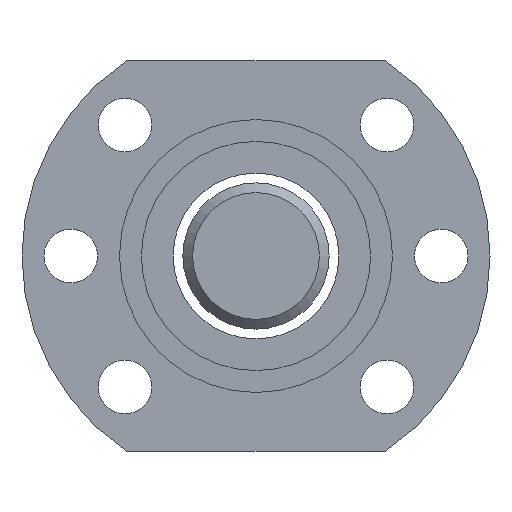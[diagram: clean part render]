
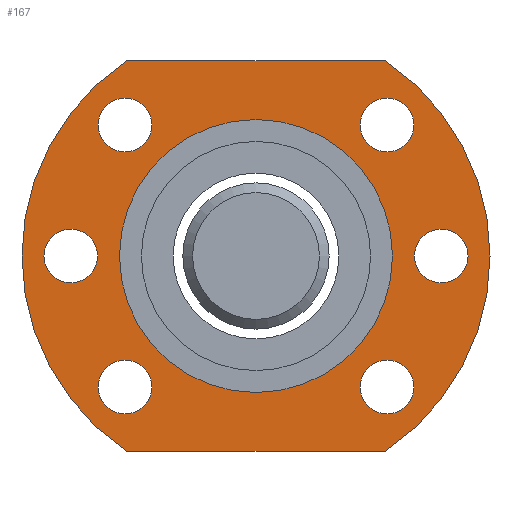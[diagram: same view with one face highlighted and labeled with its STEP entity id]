
A CAD part, left-side view. The second image highlights one B-rep face of the part: STEP entity #167.
In plain terms, the highlighted planar face has unit normal (-1, 0, 0).
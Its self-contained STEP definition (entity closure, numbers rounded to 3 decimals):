
#113=LINE('',#1132,#121);
#114=LINE('',#1136,#122);
#121=VECTOR('',#930,1.);
#122=VECTOR('',#933,1.);
#136=PLANE('',#782);
#167=ADVANCED_FACE('',(#267,#268,#269,#270,#271,#272,#273,#274),#136,.T.);
#267=FACE_BOUND('',#367,.T.);
#268=FACE_BOUND('',#368,.T.);
#269=FACE_BOUND('',#369,.T.);
#270=FACE_BOUND('',#370,.T.);
#271=FACE_BOUND('',#371,.T.);
#272=FACE_BOUND('',#372,.T.);
#273=FACE_BOUND('',#373,.T.);
#274=FACE_BOUND('',#374,.T.);
#367=EDGE_LOOP('',(#476));
#368=EDGE_LOOP('',(#477));
#369=EDGE_LOOP('',(#478,#479,#480,#481));
#370=EDGE_LOOP('',(#482));
#371=EDGE_LOOP('',(#483));
#372=EDGE_LOOP('',(#484));
#373=EDGE_LOOP('',(#485));
#374=EDGE_LOOP('',(#486));
#476=ORIENTED_EDGE('',*,*,#641,.T.);
#477=ORIENTED_EDGE('',*,*,#630,.F.);
#478=ORIENTED_EDGE('',*,*,#642,.T.);
#479=ORIENTED_EDGE('',*,*,#643,.T.);
#480=ORIENTED_EDGE('',*,*,#644,.T.);
#481=ORIENTED_EDGE('',*,*,#645,.T.);
#482=ORIENTED_EDGE('',*,*,#646,.F.);
#483=ORIENTED_EDGE('',*,*,#647,.F.);
#484=ORIENTED_EDGE('',*,*,#648,.F.);
#485=ORIENTED_EDGE('',*,*,#649,.T.);
#486=ORIENTED_EDGE('',*,*,#650,.T.);
#572=VERTEX_POINT('',#1104);
#583=VERTEX_POINT('',#1128);
#584=VERTEX_POINT('',#1130);
#585=VERTEX_POINT('',#1131);
#586=VERTEX_POINT('',#1133);
#587=VERTEX_POINT('',#1135);
#588=VERTEX_POINT('',#1138);
#589=VERTEX_POINT('',#1140);
#590=VERTEX_POINT('',#1142);
#591=VERTEX_POINT('',#1144);
#592=VERTEX_POINT('',#1146);
#630=EDGE_CURVE('',#572,#572,#692,.T.);
#641=EDGE_CURVE('',#583,#583,#701,.T.);
#642=EDGE_CURVE('',#584,#585,#702,.T.);
#643=EDGE_CURVE('',#585,#586,#113,.T.);
#644=EDGE_CURVE('',#586,#587,#703,.T.);
#645=EDGE_CURVE('',#587,#584,#114,.T.);
#646=EDGE_CURVE('',#588,#588,#704,.T.);
#647=EDGE_CURVE('',#589,#589,#705,.T.);
#648=EDGE_CURVE('',#590,#590,#706,.T.);
#649=EDGE_CURVE('',#591,#591,#707,.T.);
#650=EDGE_CURVE('',#592,#592,#708,.T.);
#692=CIRCLE('',#763,14.);
#701=CIRCLE('',#774,2.75);
#702=CIRCLE('',#775,24.);
#703=CIRCLE('',#776,24.);
#704=CIRCLE('',#777,2.75);
#705=CIRCLE('',#778,2.75);
#706=CIRCLE('',#779,2.75);
#707=CIRCLE('',#780,2.75);
#708=CIRCLE('',#781,2.75);
#763=AXIS2_PLACEMENT_3D('',#1103,#902,#903);
#774=AXIS2_PLACEMENT_3D('',#1127,#926,#927);
#775=AXIS2_PLACEMENT_3D('',#1129,#928,#929);
#776=AXIS2_PLACEMENT_3D('',#1134,#931,#932);
#777=AXIS2_PLACEMENT_3D('',#1137,#934,#935);
#778=AXIS2_PLACEMENT_3D('',#1139,#936,#937);
#779=AXIS2_PLACEMENT_3D('',#1141,#938,#939);
#780=AXIS2_PLACEMENT_3D('',#1143,#940,#941);
#781=AXIS2_PLACEMENT_3D('',#1145,#942,#943);
#782=AXIS2_PLACEMENT_3D('',#1147,#944,#945);
#902=DIRECTION('',(-1.,0.,0.));
#903=DIRECTION('',(0.,0.,-1.));
#926=DIRECTION('',(1.,0.,0.));
#927=DIRECTION('',(0.,0.,1.));
#928=DIRECTION('',(-1.,0.,0.));
#929=DIRECTION('',(0.,0.,-1.));
#930=DIRECTION('',(0.,-1.,0.));
#931=DIRECTION('',(-1.,0.,0.));
#932=DIRECTION('',(0.,0.,-1.));
#933=DIRECTION('',(0.,1.,0.));
#934=DIRECTION('',(-1.,0.,0.));
#935=DIRECTION('',(0.,0.,1.));
#936=DIRECTION('',(-1.,0.,0.));
#937=DIRECTION('',(0.,0.,1.));
#938=DIRECTION('',(-1.,0.,0.));
#939=DIRECTION('',(0.,0.,1.));
#940=DIRECTION('',(1.,0.,0.));
#941=DIRECTION('',(0.,0.,1.));
#942=DIRECTION('',(1.,0.,0.));
#943=DIRECTION('',(0.,0.,1.));
#944=DIRECTION('',(-1.,0.,0.));
#945=DIRECTION('',(0.,0.,1.));
#1103=CARTESIAN_POINT('',(-70.362,-50.269,-11.066));
#1104=CARTESIAN_POINT('',(-70.362,-50.269,-25.066));
#1127=CARTESIAN_POINT('',(-70.362,-69.269,-11.066));
#1128=CARTESIAN_POINT('',(-70.362,-69.269,-8.316));
#1129=CARTESIAN_POINT('',(-70.362,-50.269,-11.066));
#1130=CARTESIAN_POINT('',(-70.362,-37.002,8.934));
#1131=CARTESIAN_POINT('',(-70.362,-37.002,-31.066));
#1132=CARTESIAN_POINT('',(-70.362,-37.002,-31.066));
#1133=CARTESIAN_POINT('',(-70.362,-63.535,-31.066));
#1134=CARTESIAN_POINT('',(-70.362,-50.269,-11.066));
#1135=CARTESIAN_POINT('',(-70.362,-63.535,8.934));
#1136=CARTESIAN_POINT('',(-70.362,-63.535,8.934));
#1137=CARTESIAN_POINT('',(-70.362,-31.269,-11.066));
#1138=CARTESIAN_POINT('',(-70.362,-31.269,-8.316));
#1139=CARTESIAN_POINT('',(-70.362,-36.834,2.369));
#1140=CARTESIAN_POINT('',(-70.362,-36.834,5.119));
#1141=CARTESIAN_POINT('',(-70.362,-36.834,-24.501));
#1142=CARTESIAN_POINT('',(-70.362,-36.834,-21.751));
#1143=CARTESIAN_POINT('',(-70.362,-63.704,-24.501));
#1144=CARTESIAN_POINT('',(-70.362,-63.704,-21.751));
#1145=CARTESIAN_POINT('',(-70.362,-63.704,2.369));
#1146=CARTESIAN_POINT('',(-70.362,-63.704,5.119));
#1147=CARTESIAN_POINT('',(-70.362,-50.269,-11.066));
